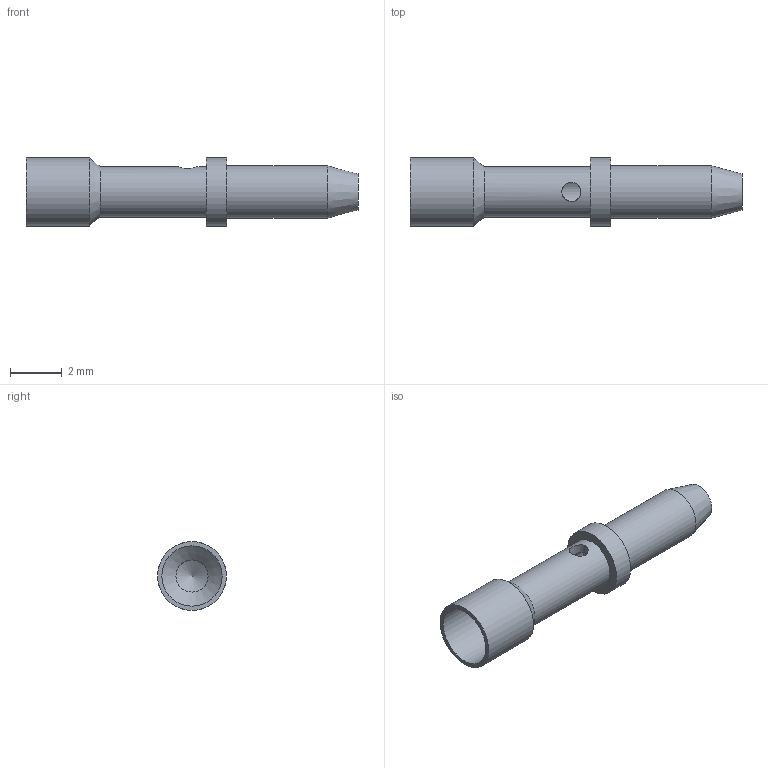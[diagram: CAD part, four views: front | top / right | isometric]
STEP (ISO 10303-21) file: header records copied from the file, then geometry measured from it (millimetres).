
FILE_DESCRIPTION(/* description */ (''),/* implementation_level */ '2;1');
FILE_NAME(/* name */ 'Z:\STEP folder\460336901.ipt.stp',/* time_stamp */ '2016-12-21T13:06:44+00:00',/* author */ ('Paul Karlsons'),/* organization */ (''),/* preprocessor_version */ 'ST-DEVELOPER v15.2',/* originating_system */ 'Autodesk Inventor 2014',/* authorisation */ '');
FILE_SCHEMA (('AUTOMOTIVE_DESIGN { 1 0 10303 214 3 1 1 }'));
Length unit declared in the file: millimetre
Products named in the file (1): 460336901
Bounding box: 12.85 x 2.67 x 2.67 mm (x, y, z)
Volume: 32.1 mm3; surface area: 133.8 mm2
Topology: 1 solids, 1 shells, 15 faces, 29 edges, 18 vertices
Faces by surface type: cylinder 7, cone 4, plane 4
Full cylindrical faces by diameter (mm): 0.737 x1, 1.245 x1, 1.956 x1, 2.032 x1, 2.337 x1, 2.667 x1, 2.668 x1
Entity records: 389 total; most frequent: CARTESIAN_POINT 112, DIRECTION 58, EDGE_LOOP 30, ORIENTED_EDGE 30, AXIS2_PLACEMENT_3D 29, FACE_BOUND 19, VERTEX_POINT 15, EDGE_CURVE 15
